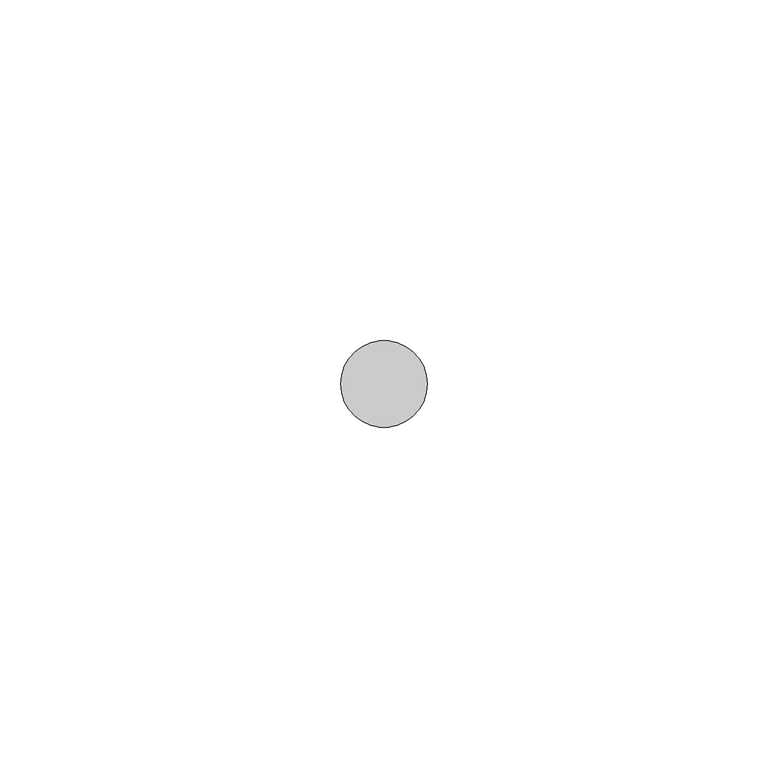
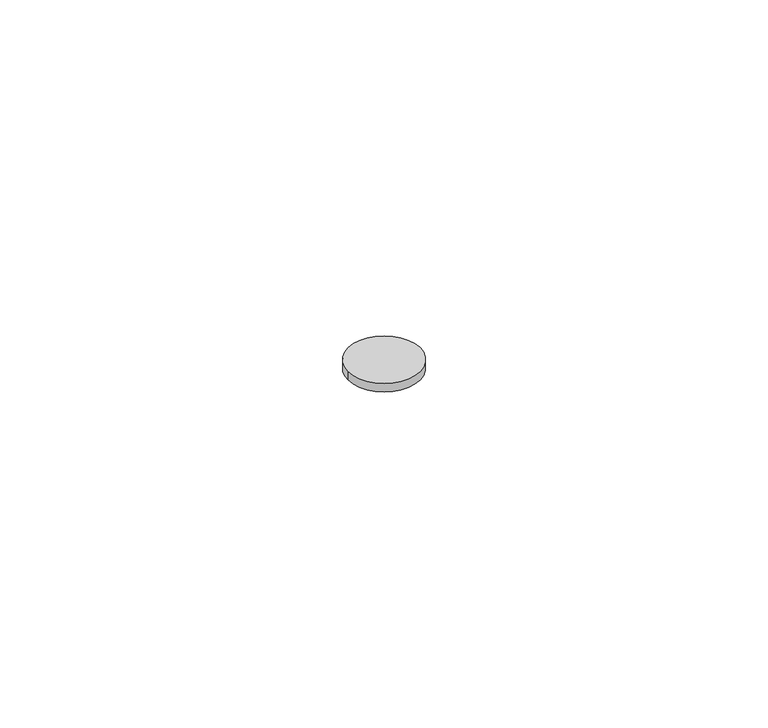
"""IFC4 building model written with IfcOpenShell, lengths in millimetres: proxy geometry, NBS_Hudevad_Tappings : TappingA."""

from ifc_helpers import new_model, si_unit, point, origin, origin_with_axes, origin_2d, place, context, project, spatial, circle_curve, trimmed, segment, composite_curve, outline, extrude, source, transform, mapped, element, save


def mechanical_equipment_ce166965(model_context):
    return source(origin(), model_context, "Body", "SweptSolid", [
        extrude(outline(composite_curve([segment(trimmed(circle_curve(origin_2d(), 6.35), [point((-6.35, 0.0))], [point((6.35, 0.0))], False, "CARTESIAN"), True, "CONTINUOUS"), segment(trimmed(circle_curve(origin_2d(), 6.35), [point((6.35, 0.0))], [point((-6.35, 0.0))], False, "CARTESIAN"), True, "CONTINUOUS")], self_intersect=False)), origin_with_axes(), (0.0, 0.0, 1.0), 1.6),
    ])


if __name__ == "__main__":
    model = new_model("IFC4")
    model_context = context("Model", 3, world=origin())
    ifc_project = project(units=[si_unit("LENGTHUNIT", "METRE", prefix="MILLI")], contexts=[model_context])
    site = spatial("IfcSite", under=ifc_project)
    building = spatial("IfcBuilding", under=site)
    placement = place(None, origin())
    mechanical_equipment_shape = mechanical_equipment_ce166965(model_context)
    element("IfcBuildingElementProxy", 1, Name="NBS_Hudevad_Tappings : TappingA", ObjectType="NBS_Hudevad_Tappings : TappingA", at=placement, inside=building, context=model_context, shape_type="MappedRepresentation", body=[
        mapped(mechanical_equipment_shape, transform((0.0, 0.0, 0.0), x_axis=(1.0, 0.0, 0.0), y_axis=(0.0, 1.0, 0.0), z_axis=(0.0, 0.0, 1.0))),
    ])
    save(model, "model.ifc")
